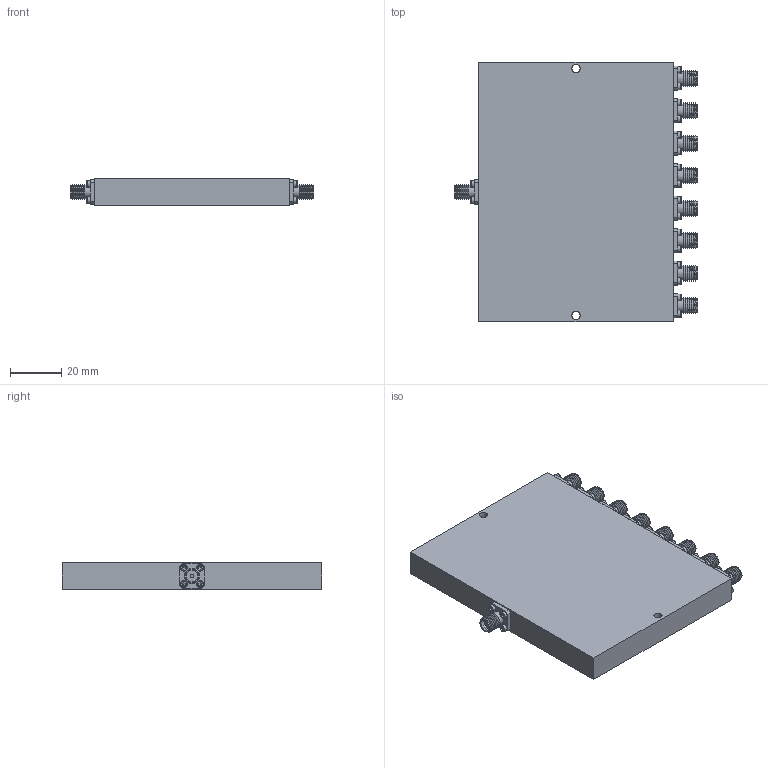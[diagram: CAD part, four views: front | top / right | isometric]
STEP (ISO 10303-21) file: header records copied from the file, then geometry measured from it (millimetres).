
FILE_DESCRIPTION(/* description */ ('Unknown'),/* implementation_level */ '2;1');
FILE_NAME(/* name */ 'DETI_MICROWAVE_8-WAY_POWER_DIVIDER_011220_STEP',/* time_stamp */ '2021-06-28T14:27:15+02:00',/* author */ ('ALG'),/* organization */ ('DETI'),/* preprocessor_version */ 'ST-DEVELOPER v16.7',/* originating_system */ 'Solid Edge',/* authorisation */ 'Unknown');
FILE_SCHEMA (('AUTOMOTIVE_DESIGN { 1 0 10303 214 3 1 1 }','AUTOMOTIVE_DESIGN {1 0 10303 214 3 1 1}'));
Length unit declared in the file: millimetre
Products named in the file (1): DETI_MICROWAVE_8-WAY_POWER_DIVIDER_011220_STEP
Bounding box: 95.2 x 101.6 x 10.29 mm (x, y, z)
Volume: 82125.3 mm3; surface area: 24159.5 mm2
Topology: 1 solids, 82 shells, 980 faces, 2222 edges, 1451 vertices
Faces by surface type: plane 465, cylinder 245, cone 234, torus 36
Full cylindrical faces by diameter (mm): 1.1 x9, 1.221 x36, 1.27 x18, 1.4 x36, 1.8 x36, 2.6 x36, 3.2 x2, 4.1 x9, 4.6 x9, 5.3 x18
Entity records: 30202 total; most frequent: CARTESIAN_POINT 4555, DIRECTION 3872, ORIENTED_EDGE 2966, FACE_BOUND 1670, AXIS2_PLACEMENT_3D 1642, EDGE_LOOP 1598, EDGE_CURVE 1483, VERTEX_POINT 1263
